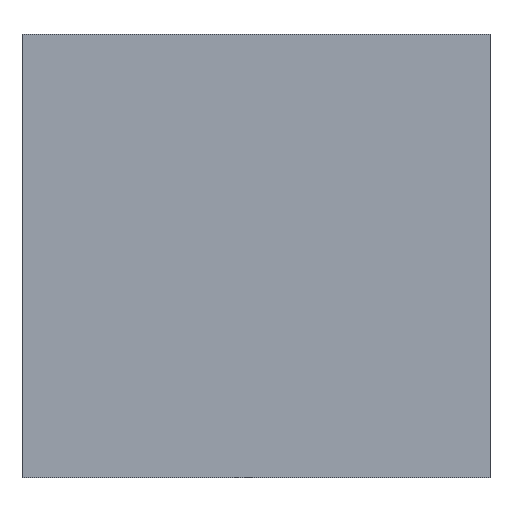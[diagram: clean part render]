
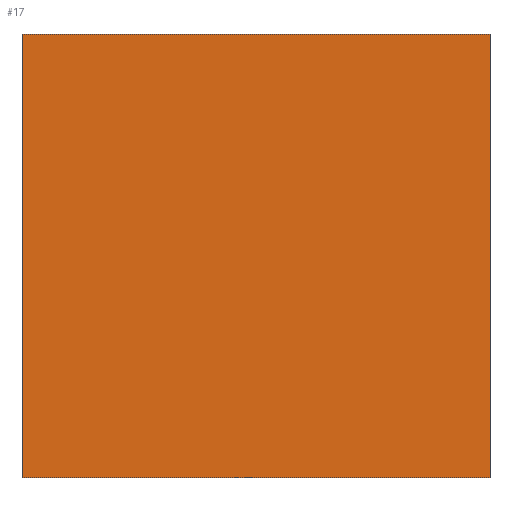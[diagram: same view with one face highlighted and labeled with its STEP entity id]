
A CAD part, left-side view. The second image highlights one B-rep face of the part: STEP entity #17.
In plain terms, the highlighted planar face has unit normal (-1, 0, 0).
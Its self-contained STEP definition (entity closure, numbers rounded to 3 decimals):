
#17 = ADVANCED_FACE('f000',(#18),#32,.F.);
#18 = FACE_BOUND('',#19,.F.);
#19 = EDGE_LOOP('',(#20,#55,#83,#111));
#20 = ORIENTED_EDGE('',*,*,#21,.F.);
#21 = EDGE_CURVE('',#22,#24,#26,.T.);
#22 = VERTEX_POINT('',#23);
#23 = CARTESIAN_POINT('',(0.,0.,0.));
#24 = VERTEX_POINT('',#25);
#25 = CARTESIAN_POINT('',(0.,0.,25.542));
#26 = SURFACE_CURVE('',#27,(#31,#43),.PCURVE_S1.);
#27 = LINE('',#28,#29);
#28 = CARTESIAN_POINT('',(0.,0.,0.));
#29 = VECTOR('',#30,1.);
#30 = DIRECTION('',(0.,0.,1.));
#31 = PCURVE('',#32,#37);
#32 = PLANE('',#33);
#33 = AXIS2_PLACEMENT_3D('',#34,#35,#36);
#34 = CARTESIAN_POINT('',(0.,0.,0.));
#35 = DIRECTION('',(1.,0.,-0.));
#36 = DIRECTION('',(0.,0.,1.));
#37 = DEFINITIONAL_REPRESENTATION('',(#38),#42);
#38 = LINE('',#39,#40);
#39 = CARTESIAN_POINT('',(0.,0.));
#40 = VECTOR('',#41,1.);
#41 = DIRECTION('',(1.,0.));
#42 = ( GEOMETRIC_REPRESENTATION_CONTEXT(2) 
PARAMETRIC_REPRESENTATION_CONTEXT() REPRESENTATION_CONTEXT('2D SPACE',''
  ) );
#43 = PCURVE('',#44,#49);
#44 = PLANE('',#45);
#45 = AXIS2_PLACEMENT_3D('',#46,#47,#48);
#46 = CARTESIAN_POINT('',(0.,0.,0.));
#47 = DIRECTION('',(-0.,1.,0.));
#48 = DIRECTION('',(0.,0.,1.));
#49 = DEFINITIONAL_REPRESENTATION('',(#50),#54);
#50 = LINE('',#51,#52);
#51 = CARTESIAN_POINT('',(0.,0.));
#52 = VECTOR('',#53,1.);
#53 = DIRECTION('',(1.,0.));
#54 = ( GEOMETRIC_REPRESENTATION_CONTEXT(2) 
PARAMETRIC_REPRESENTATION_CONTEXT() REPRESENTATION_CONTEXT('2D SPACE',''
  ) );
#55 = ORIENTED_EDGE('',*,*,#56,.T.);
#56 = EDGE_CURVE('',#22,#57,#59,.T.);
#57 = VERTEX_POINT('',#58);
#58 = CARTESIAN_POINT('',(0.,26.953,0.));
#59 = SURFACE_CURVE('',#60,(#64,#71),.PCURVE_S1.);
#60 = LINE('',#61,#62);
#61 = CARTESIAN_POINT('',(0.,0.,0.));
#62 = VECTOR('',#63,1.);
#63 = DIRECTION('',(-0.,1.,0.));
#64 = PCURVE('',#32,#65);
#65 = DEFINITIONAL_REPRESENTATION('',(#66),#70);
#66 = LINE('',#67,#68);
#67 = CARTESIAN_POINT('',(0.,0.));
#68 = VECTOR('',#69,1.);
#69 = DIRECTION('',(0.,-1.));
#70 = ( GEOMETRIC_REPRESENTATION_CONTEXT(2) 
PARAMETRIC_REPRESENTATION_CONTEXT() REPRESENTATION_CONTEXT('2D SPACE',''
  ) );
#71 = PCURVE('',#72,#77);
#72 = PLANE('',#73);
#73 = AXIS2_PLACEMENT_3D('',#74,#75,#76);
#74 = CARTESIAN_POINT('',(0.,0.,0.));
#75 = DIRECTION('',(0.,0.,1.));
#76 = DIRECTION('',(1.,0.,-0.));
#77 = DEFINITIONAL_REPRESENTATION('',(#78),#82);
#78 = LINE('',#79,#80);
#79 = CARTESIAN_POINT('',(0.,0.));
#80 = VECTOR('',#81,1.);
#81 = DIRECTION('',(0.,1.));
#82 = ( GEOMETRIC_REPRESENTATION_CONTEXT(2) 
PARAMETRIC_REPRESENTATION_CONTEXT() REPRESENTATION_CONTEXT('2D SPACE',''
  ) );
#83 = ORIENTED_EDGE('',*,*,#84,.T.);
#84 = EDGE_CURVE('',#57,#85,#87,.T.);
#85 = VERTEX_POINT('',#86);
#86 = CARTESIAN_POINT('',(0.,26.953,25.542));
#87 = SURFACE_CURVE('',#88,(#92,#99),.PCURVE_S1.);
#88 = LINE('',#89,#90);
#89 = CARTESIAN_POINT('',(0.,26.953,0.));
#90 = VECTOR('',#91,1.);
#91 = DIRECTION('',(0.,0.,1.));
#92 = PCURVE('',#32,#93);
#93 = DEFINITIONAL_REPRESENTATION('',(#94),#98);
#94 = LINE('',#95,#96);
#95 = CARTESIAN_POINT('',(0.,-26.953));
#96 = VECTOR('',#97,1.);
#97 = DIRECTION('',(1.,0.));
#98 = ( GEOMETRIC_REPRESENTATION_CONTEXT(2) 
PARAMETRIC_REPRESENTATION_CONTEXT() REPRESENTATION_CONTEXT('2D SPACE',''
  ) );
#99 = PCURVE('',#100,#105);
#100 = PLANE('',#101);
#101 = AXIS2_PLACEMENT_3D('',#102,#103,#104);
#102 = CARTESIAN_POINT('',(0.,26.953,0.));
#103 = DIRECTION('',(-0.,1.,0.));
#104 = DIRECTION('',(0.,0.,1.));
#105 = DEFINITIONAL_REPRESENTATION('',(#106),#110);
#106 = LINE('',#107,#108);
#107 = CARTESIAN_POINT('',(0.,0.));
#108 = VECTOR('',#109,1.);
#109 = DIRECTION('',(1.,0.));
#110 = ( GEOMETRIC_REPRESENTATION_CONTEXT(2) 
PARAMETRIC_REPRESENTATION_CONTEXT() REPRESENTATION_CONTEXT('2D SPACE',''
  ) );
#111 = ORIENTED_EDGE('',*,*,#112,.F.);
#112 = EDGE_CURVE('',#24,#85,#113,.T.);
#113 = SURFACE_CURVE('',#114,(#118,#125),.PCURVE_S1.);
#114 = LINE('',#115,#116);
#115 = CARTESIAN_POINT('',(0.,0.,25.542));
#116 = VECTOR('',#117,1.);
#117 = DIRECTION('',(-0.,1.,0.));
#118 = PCURVE('',#32,#119);
#119 = DEFINITIONAL_REPRESENTATION('',(#120),#124);
#120 = LINE('',#121,#122);
#121 = CARTESIAN_POINT('',(25.542,0.));
#122 = VECTOR('',#123,1.);
#123 = DIRECTION('',(0.,-1.));
#124 = ( GEOMETRIC_REPRESENTATION_CONTEXT(2) 
PARAMETRIC_REPRESENTATION_CONTEXT() REPRESENTATION_CONTEXT('2D SPACE',''
  ) );
#125 = PCURVE('',#126,#131);
#126 = PLANE('',#127);
#127 = AXIS2_PLACEMENT_3D('',#128,#129,#130);
#128 = CARTESIAN_POINT('',(0.,0.,25.542));
#129 = DIRECTION('',(0.,0.,1.));
#130 = DIRECTION('',(1.,0.,-0.));
#131 = DEFINITIONAL_REPRESENTATION('',(#132),#136);
#132 = LINE('',#133,#134);
#133 = CARTESIAN_POINT('',(0.,0.));
#134 = VECTOR('',#135,1.);
#135 = DIRECTION('',(0.,1.));
#136 = ( GEOMETRIC_REPRESENTATION_CONTEXT(2) 
PARAMETRIC_REPRESENTATION_CONTEXT() REPRESENTATION_CONTEXT('2D SPACE',''
  ) );
